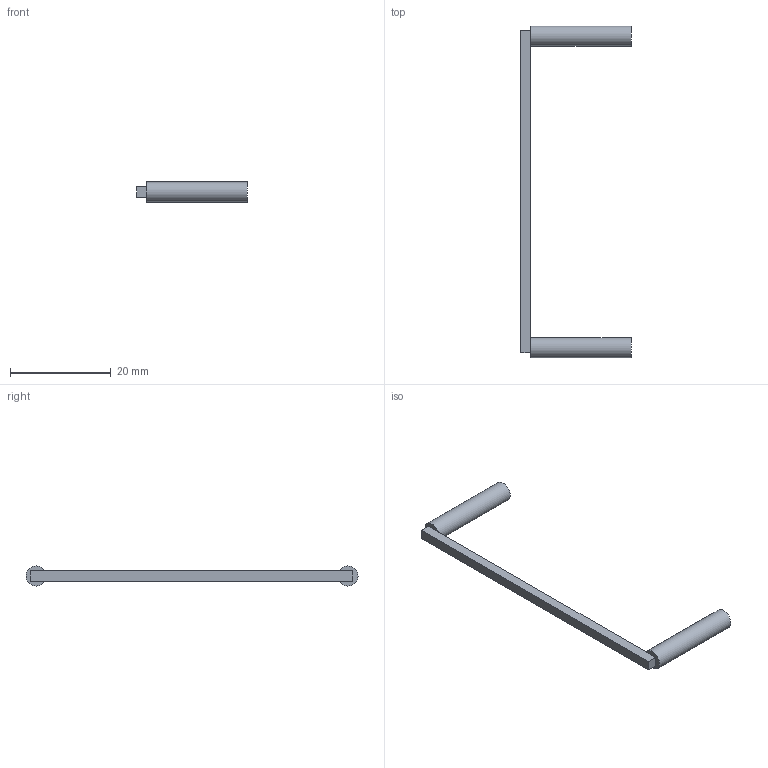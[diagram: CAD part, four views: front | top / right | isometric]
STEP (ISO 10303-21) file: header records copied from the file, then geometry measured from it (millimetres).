
FILE_DESCRIPTION(/* description */ ('STEP AP242 Edition 2','CAx-IF Rec.Pracs.---Representation and Presentation of Product Manufacturing Information (PMI)---4.0---2014-10-13','CAx-IF Rec.Pracs.---3D Tessellated Geometry---0.4---2014-09-14','2;1','CAx-IF Rec.Pracs.---User Defined Attributes---1.5---2016-08-15'),/* implementation_level */ '2;1');
FILE_NAME(/* name */ 'Assembly 1 - Crank',/* time_stamp */ '2026-08-25T12:52:25Z',/* author */ (''),/* organization */ (''),/* preprocessor_version */ 'ST-DEVELOPER v20',/* originating_system */ 'ONSHAPE BY PTC INC, 1.219',/* authorisation */ ' ');
FILE_SCHEMA (('AP242_MANAGED_MODEL_BASED_3D_ENGINEERING_MIM_LF { 1 0 10303 442 3 1 4 }'));
Length unit declared in the file: metre
Products named in the file (1): Crank
Bounding box: 22 x 65.99 x 4 mm (x, y, z)
Volume: 752.2 mm3; surface area: 1047.8 mm2
Topology: 1 solids, 1 shells, 13 faces, 28 edges, 18 vertices
Faces by surface type: plane 11, cylinder 2
Full cylindrical faces by diameter (mm): 3.98 x1, 4 x1
Entity records: 354 total; most frequent: DIRECTION 58, CARTESIAN_POINT 56, ORIENTED_EDGE 50, EDGE_CURVE 25, LINE 20, VECTOR 20, AXIS2_PLACEMENT_3D 19, VERTEX_POINT 17
